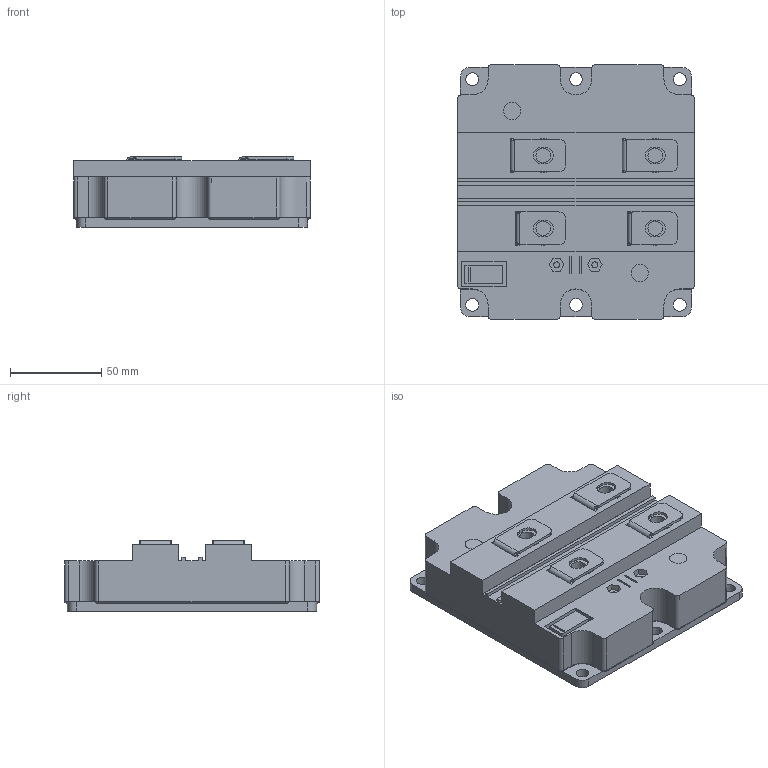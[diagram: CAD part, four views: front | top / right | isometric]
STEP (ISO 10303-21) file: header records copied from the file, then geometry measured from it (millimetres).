
FILE_DESCRIPTION (( 'STEP AP214' ), '1' );
FILE_NAME ('LD-ES-170634-MDM1200E33D.STEP', '2017-08-28T04:14:42', ( 'Flora110' ), ( '' ), 'SwSTEP 2.0', 'SolidWorks 2010', '' );
FILE_SCHEMA (( 'AUTOMOTIVE_DESIGN' ));
Length unit declared in the file: millimetre
Products named in the file (1): LD-ES-170634-MDM1200E33D
Bounding box: 130 x 140 x 38.5 mm (x, y, z)
Volume: 509776.6 mm3; surface area: 100812.5 mm2
Topology: 1 solids, 10 shells, 516 faces, 1284 edges, 835 vertices
Faces by surface type: plane 250, cylinder 150, bspline 116
Full cylindrical faces by diameter (mm): 2 x4, 3.2 x2, 4 x4, 6.8 x4, 7 x6, 8 x4, 9 x4, 9.5 x2, 18.1 x4, 18.5 x4
Entity records: 17775 total; most frequent: CARTESIAN_POINT 6126, ORIENTED_EDGE 2440, DIRECTION 2209, EDGE_CURVE 1220, VERTEX_POINT 825, AXIS2_PLACEMENT_3D 764, LINE 681, VECTOR 681
